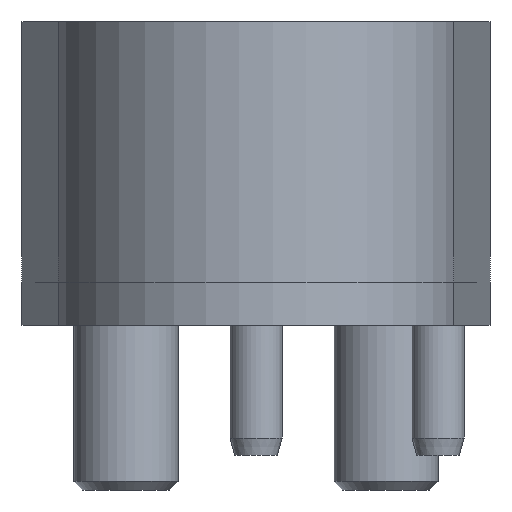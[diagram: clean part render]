
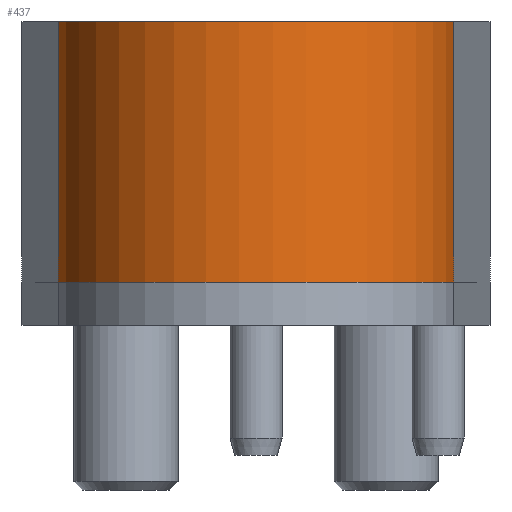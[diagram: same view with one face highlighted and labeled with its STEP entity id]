
A CAD part, left-side view. The second image highlights one B-rep face of the part: STEP entity #437.
In plain terms, the highlighted cylindrical face has radius 23 mm (diameter 46 mm), a partial arc.
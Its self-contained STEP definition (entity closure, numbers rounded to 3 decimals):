
#119=CYLINDRICAL_SURFACE('',#2648,23.);
#273=CIRCLE('',#2646,23.);
#274=CIRCLE('',#2647,23.);
#437=ADVANCED_FACE('',(#657),#119,.T.);
#657=FACE_OUTER_BOUND('',#797,.T.);
#797=EDGE_LOOP('',(#1083,#1084,#1085,#1086));
#1083=ORIENTED_EDGE('',*,*,#1933,.T.);
#1084=ORIENTED_EDGE('',*,*,#1934,.F.);
#1085=ORIENTED_EDGE('',*,*,#1935,.F.);
#1086=ORIENTED_EDGE('',*,*,#1936,.T.);
#1687=VERTEX_POINT('',#3845);
#1688=VERTEX_POINT('',#3846);
#1689=VERTEX_POINT('',#3848);
#1690=VERTEX_POINT('',#3850);
#1933=EDGE_CURVE('',#1687,#1688,#2263,.T.);
#1934=EDGE_CURVE('',#1689,#1688,#273,.T.);
#1935=EDGE_CURVE('',#1690,#1689,#2264,.T.);
#1936=EDGE_CURVE('',#1690,#1687,#274,.T.);
#2263=LINE('',#3844,#2455);
#2264=LINE('',#3849,#2456);
#2455=VECTOR('',#3047,1.);
#2456=VECTOR('',#3050,1.);
#2646=AXIS2_PLACEMENT_3D('',#3847,#3048,#3049);
#2647=AXIS2_PLACEMENT_3D('',#3851,#3051,#3052);
#2648=AXIS2_PLACEMENT_3D('',#3852,#3053,#3054);
#3047=DIRECTION('',(0.,0.,1.));
#3048=DIRECTION('',(0.,0.,1.));
#3049=DIRECTION('',(0.,1.,0.));
#3050=DIRECTION('',(0.,0.,1.));
#3051=DIRECTION('',(0.,0.,1.));
#3052=DIRECTION('',(0.,1.,0.));
#3053=DIRECTION('',(0.,0.,1.));
#3054=DIRECTION('',(-1.,0.,0.));
#3844=CARTESIAN_POINT('',(-3.085,-22.792,5.));
#3845=CARTESIAN_POINT('',(-3.085,-22.792,5.));
#3846=CARTESIAN_POINT('',(-3.085,-22.792,35.));
#3847=CARTESIAN_POINT('',(0.,0.,35.));
#3848=CARTESIAN_POINT('',(-3.085,22.792,35.));
#3849=CARTESIAN_POINT('',(-3.085,22.792,5.));
#3850=CARTESIAN_POINT('',(-3.085,22.792,5.));
#3851=CARTESIAN_POINT('',(0.,0.,5.));
#3852=CARTESIAN_POINT('',(0.,0.,0.));
